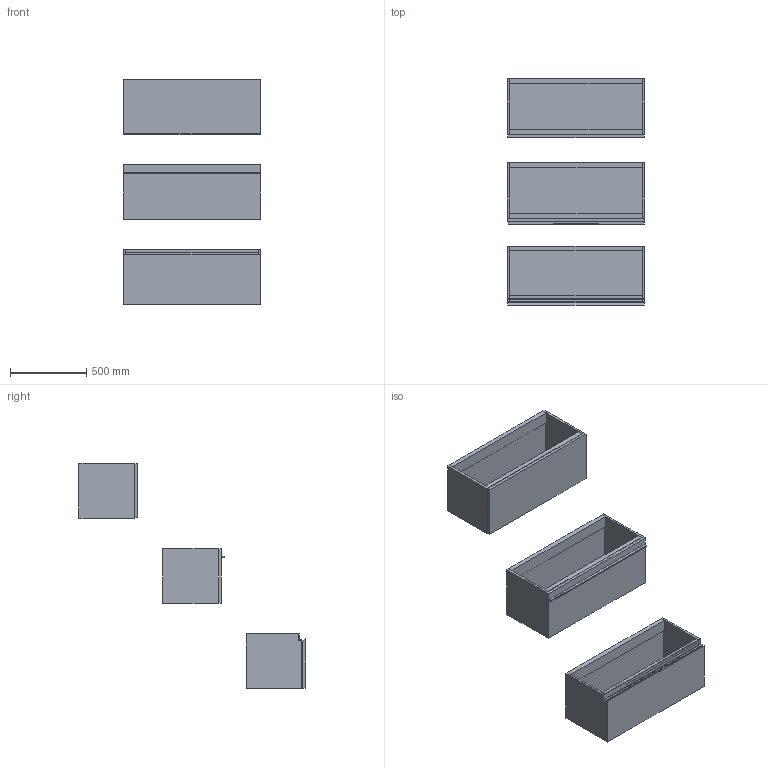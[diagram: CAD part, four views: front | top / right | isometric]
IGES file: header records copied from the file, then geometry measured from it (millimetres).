
Start section: Data from Parasolid IGES Translator 19.0.9, Copyright(c) 2006 Siemens PL M Software. All Rights Reserved.
Global section: file name: noorth-SI-H 36 D 38,8 W 90_8329.igs; native system: By Siemens PLM Incorporated; preprocessor: XPlus GENERIC/IGES 19.0.9; author: Noname; organization: Noname; date: 20200530.132525; units: metre
Bounding box: 900 x 1485.1 x 1480.01 mm (x, y, z)
Volume: 55881684.1 mm3; surface area: 8447982 mm2
Topology: 23 solids, 23 shells, 196 faces, 418 edges, 258 vertices
Faces by surface type: plane 152, extrusion 16, bspline 16, cylinder 12
